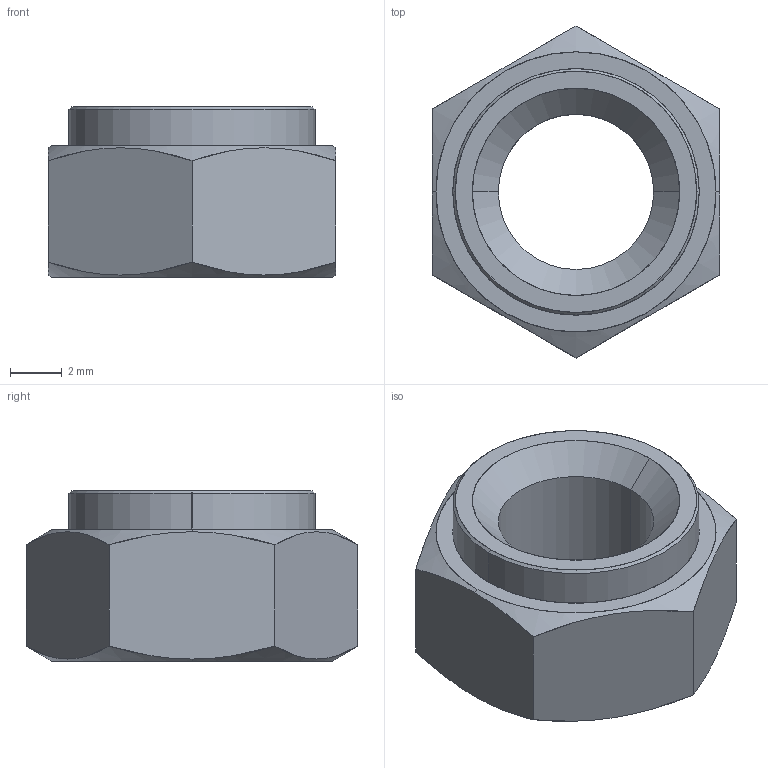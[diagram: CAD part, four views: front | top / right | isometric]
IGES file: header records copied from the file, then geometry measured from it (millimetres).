
Start section: SolidWorks IGES file using analytic representation for surfaces
Global section: file name: C:\Users\liam_\OneDrive\Desktop\Work\Mat Davis Pending 20181125\automotion\P SERIES\P0827.ZP_v2\P0827.ZP_v2_20181231_IGES\P0827.060-20G-ZP.igs; native system: SolidWorks 2017; preprocessor: SolidWorks 2017; author: liam_; date: 181231.110711; units: millimetre
Bounding box: 11.1 x 12.82 x 6.58 mm (x, y, z)
Surface area: 485.1 mm2 (no closed solid volume)
Topology: 0 solids, 0 shells, 23 faces, 400 edges, 400 vertices
Faces by surface type: revolution 14, bspline 9
